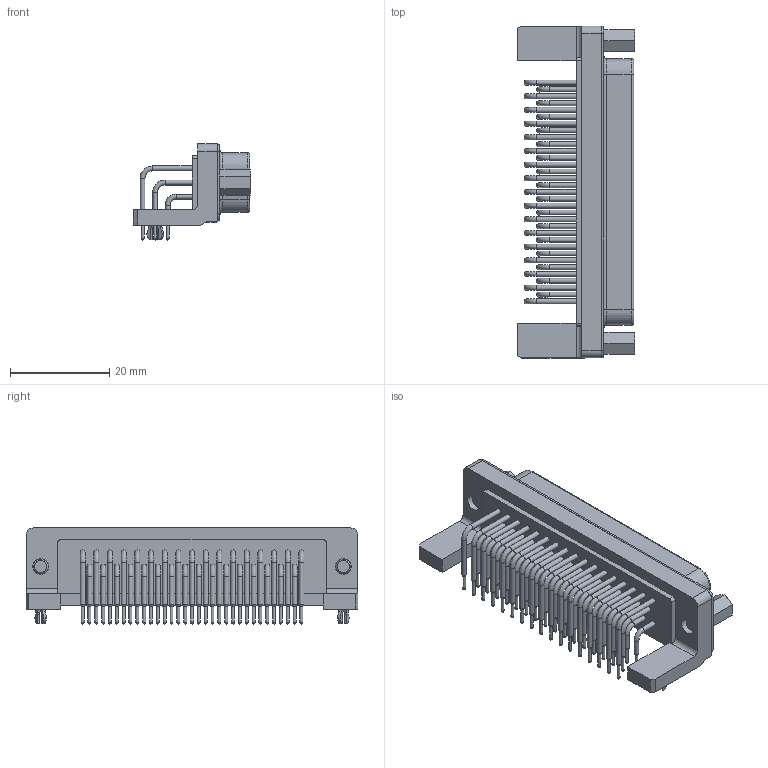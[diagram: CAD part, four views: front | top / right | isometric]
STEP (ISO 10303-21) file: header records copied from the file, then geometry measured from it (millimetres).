
FILE_DESCRIPTION(/* description */ (''),/* implementation_level */ '2;1');
FILE_NAME(/* name */ '100727907ugm000_a.stp',/* time_stamp */ '2017-06-08T10:18:03+02:00',/* author */ (''),/* organization */ (''),/* preprocessor_version */ 'ST-DEVELOPER v16',/* originating_system */ 'SIEMENS PLM Software NX 10.0',/* authorisation */ '');
FILE_SCHEMA (('AUTOMOTIVE_DESIGN { 1 0 10303 214 3 1 1 1 }'));
Length unit declared in the file: millimetre
Products named in the file (1): 100727907ugm000_a
Bounding box: 23.7 x 67 x 19.4 mm (x, y, z)
Volume: 6963.7 mm3; surface area: 10483.2 mm2
Topology: 1 solids, 3 shells, 1626 faces, 4443 edges, 2764 vertices
Faces by surface type: plane 646, cylinder 492, cone 222, torus 116, bspline 100, sphere 50
Full cylindrical faces by diameter (mm): 0.6 x50, 1 x150, 1.03 x50, 1.65 x50, 2.5 x2, 3 x4, 3.12 x2, 3.2 x2, 3.81 x2, 3.9 x2, 4.41 x2
Entity records: 57194 total; most frequent: CARTESIAN_POINT 10132, DIRECTION 7700, ORIENTED_EDGE 6296, EDGE_CURVE 3148, AXIS2_PLACEMENT_3D 3089, EDGE_LOOP 2614, VERTEX_POINT 2352, FACE_BOUND 1752
